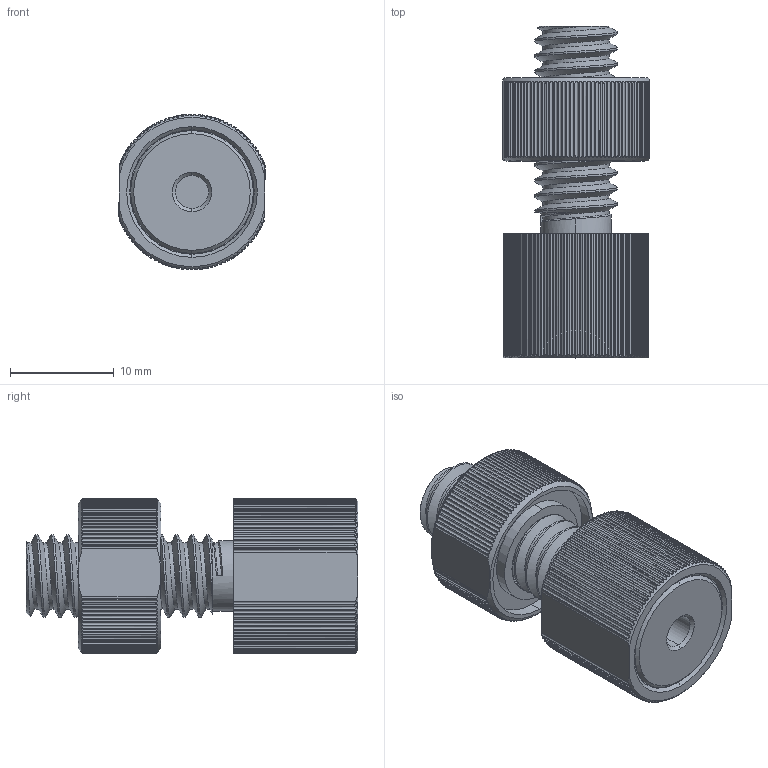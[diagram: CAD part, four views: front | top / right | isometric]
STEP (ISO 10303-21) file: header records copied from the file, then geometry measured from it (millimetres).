
FILE_DESCRIPTION (( 'STEP AP214' ), '1' );
FILE_NAME ('M8阨旮換覜ん.STEP', '2023-05-12T02:42:55', ( '' ), ( '' ), 'SwSTEP 2.0', 'SolidWorks 2020', '' );
FILE_SCHEMA (( 'AUTOMOTIVE_DESIGN' ));
Length unit declared in the file: millimetre
Products named in the file (5): M8; M8X0.75阨旮換覜ん黑芛; M8阨旮換覜ん; 水深传感器灌封胶体_M8; M8蹟譫
Assembly tree (4 placements, depth 2):
  M8阨旮換覜ん
    M8
    M8X0.75阨旮換覜ん黑芛
    水深传感器灌封胶体_M8
    M8蹟譫
Bounding box: 14.17 x 32 x 15 mm (x, y, z)
Volume: 3627.8 mm3; surface area: 4749.6 mm2
Topology: 4 solids, 4 shells, 560 faces, 1605 edges, 1062 vertices
Faces by surface type: cylinder 492, cone 29, plane 29, bspline 6, torus 4
Entity records: 24953 total; most frequent: CARTESIAN_POINT 10702, ORIENTED_EDGE 3210, DIRECTION 2756, EDGE_CURVE 1605, AXIS2_PLACEMENT_3D 1113, VERTEX_POINT 1062, EDGE_LOOP 575, ADVANCED_FACE 560
